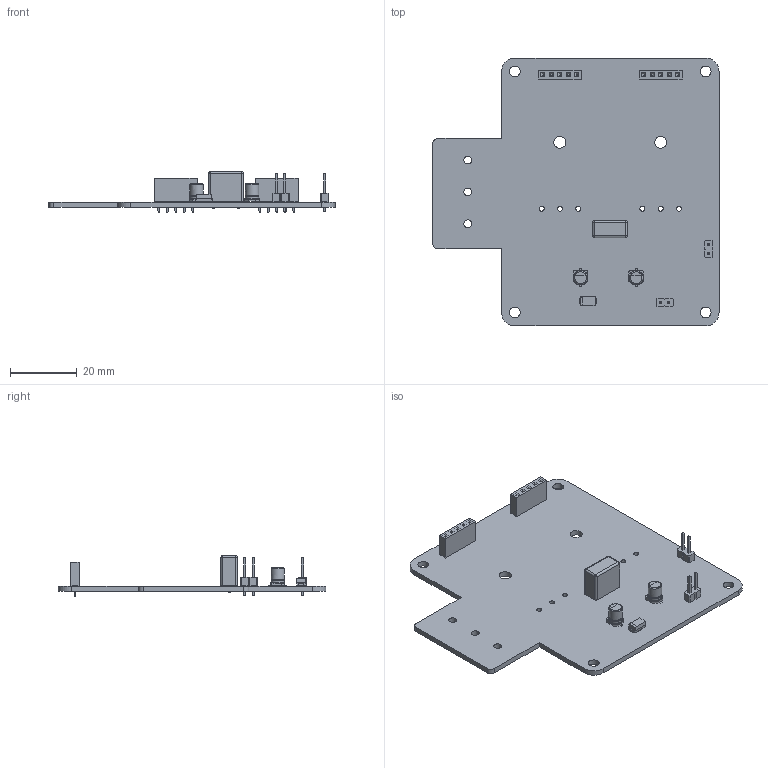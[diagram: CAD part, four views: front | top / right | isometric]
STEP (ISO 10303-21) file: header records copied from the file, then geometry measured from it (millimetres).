
FILE_DESCRIPTION(('KiCad electronic assembly'),'2;1');
FILE_NAME('powerleg_intg.step','2023-09-18T23:02:04',('An Author'),( 'A Company'),'Open CASCADE STEP processor 6.9', 'KiCad to STEP converter','Unknown');
FILE_SCHEMA(('AUTOMOTIVE_DESIGN { 1 0 10303 214 1 1 1 1 }'));
Length unit declared in the file: millimetre
Products named in the file (12): Open CASCADE STEP translator 6.9 1; CP_Elec_4x5.4; SOLID; D_SMA; PinSocket_1x05_P2.54mm_Vertical; PinHeader_1x02_P2.54mm_Vertical; C_Rect_L10.3mm_W5.0mm_P7.50mm_MKS4; COMPOUND
Assembly tree (14 placements, depth 3):
  Open CASCADE STEP translator 6.9 1
    CP_Elec_4x5.4  x2
      SOLID
    D_SMA
      SOLID
    PinSocket_1x05_P2.54mm_Vertical  x2
      SOLID
    PinHeader_1x02_P2.54mm_Vertical  x2
      SOLID
    C_Rect_L10.3mm_W5.0mm_P7.50mm_MKS4
      SOLID
    COMPOUND
Bounding box: 85.5 x 80 x 12.1 mm (x, y, z)
Volume: 10366.3 mm3; surface area: 13984.5 mm2
Topology: 9 solids, 9 shells, 626 faces, 1585 edges, 1016 vertices
Faces by surface type: plane 527, cylinder 71, bspline 14, torus 8, sphere 4, revolution 2
Full cylindrical faces by diameter (mm): 0.7 x2, 1 x16, 1.5 x6, 2.3 x3, 3.2 x4, 3.6 x2, 4 x4
Entity records: 26006 total; most frequent: CARTESIAN_POINT 4383, DIRECTION 3593, LINE 2494, VECTOR 2494, ORIENTED_EDGE 1864, PCURVE 1864, DEFINITIONAL_REPRESENTATION 1864, EDGE_CURVE 932
